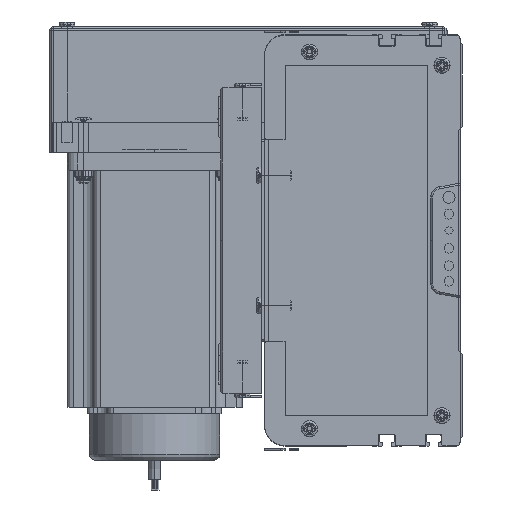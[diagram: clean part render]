
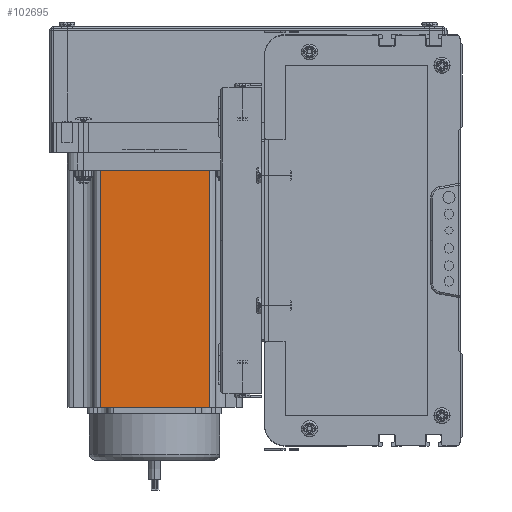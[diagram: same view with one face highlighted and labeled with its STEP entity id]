
A CAD part, left-side view. The second image highlights one B-rep face of the part: STEP entity #102695.
In plain terms, the highlighted planar face has unit normal (-1, 0, 0) as drawn and (0, -1, 0) by its records, which use the part's own axes.
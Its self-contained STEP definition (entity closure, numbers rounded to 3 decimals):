
#58744 = CARTESIAN_POINT ( 'NONE',  ( 16.16, 0., 0. ) ) ;
#59502 = DIRECTION ( 'NONE',  ( 1., 0., 0. ) ) ;
#59504 = VECTOR ( 'NONE', #59502, 1000. ) ;
#59515 = CARTESIAN_POINT ( 'NONE',  ( 0., 0., 0. ) ) ;
#59537 = LINE ( 'NONE', #59515, #59504 ) ;
#59643 = FACE_OUTER_BOUND ( 'NONE', #102887, .T. ) ;
#59670 = CARTESIAN_POINT ( 'NONE',  ( 69.74, 0., 0. ) ) ;
#59804 = DIRECTION ( 'NONE',  ( 1., 0., 0. ) ) ;
#59805 = VECTOR ( 'NONE', #59804, 1000. ) ;
#59807 = CARTESIAN_POINT ( 'NONE',  ( 0., 0., 116.5 ) ) ;
#59811 = DIRECTION ( 'NONE',  ( 0., 0., 1. ) ) ;
#59814 = DIRECTION ( 'NONE',  ( 0., 1., 0. ) ) ;
#59816 = LINE ( 'NONE', #59807, #59805 ) ;
#59845 = DIRECTION ( 'NONE',  ( 0., 0., 1. ) ) ;
#59846 = VECTOR ( 'NONE', #59845, 1000. ) ;
#59848 = CARTESIAN_POINT ( 'NONE',  ( 69.74, 0., 116.5 ) ) ;
#59849 = LINE ( 'NONE', #59848, #59846 ) ;
#60012 = AXIS2_PLACEMENT_3D ( 'NONE', #60035, #59814, #59811 ) ;
#60025 = PLANE ( 'NONE',  #60012 ) ;
#60035 = CARTESIAN_POINT ( 'NONE',  ( 0., 0., 116.5 ) ) ;
#60310 = DIRECTION ( 'NONE',  ( 0., 0., -1. ) ) ;
#60312 = VECTOR ( 'NONE', #60310, 1000. ) ;
#60313 = CARTESIAN_POINT ( 'NONE',  ( 16.16, 0., 116.5 ) ) ;
#60409 = LINE ( 'NONE', #60313, #60312 ) ;
#60427 = CARTESIAN_POINT ( 'NONE',  ( 16.16, 0., 116.5 ) ) ;
#88168 = CARTESIAN_POINT ( 'NONE',  ( 69.74, 0., 116.5 ) ) ;
#102540 = VERTEX_POINT ( 'NONE', #58744 ) ;
#102587 = EDGE_CURVE ( 'NONE', #102540, #102681, #59537, .T. ) ;
#102601 = ORIENTED_EDGE ( 'NONE', *, *, #102587, .T. ) ;
#102681 = VERTEX_POINT ( 'NONE', #59670 ) ;
#102695 = ADVANCED_FACE ( 'NONE', ( #59643 ), #60025, .F. ) ;
#102697 = EDGE_CURVE ( 'NONE', #102782, #102909, #59816, .T. ) ;
#102699 = EDGE_CURVE ( 'NONE', #102681, #102909, #59849, .T. ) ;
#102741 = ORIENTED_EDGE ( 'NONE', *, *, #102697, .F. ) ;
#102782 = VERTEX_POINT ( 'NONE', #60427 ) ;
#102789 = EDGE_CURVE ( 'NONE', #102782, #102540, #60409, .T. ) ;
#102867 = ORIENTED_EDGE ( 'NONE', *, *, #102699, .T. ) ;
#102887 = EDGE_LOOP ( 'NONE', ( #102601, #102867, #102741, #102907 ) ) ;
#102907 = ORIENTED_EDGE ( 'NONE', *, *, #102789, .T. ) ;
#102909 = VERTEX_POINT ( 'NONE', #88168 ) ;
